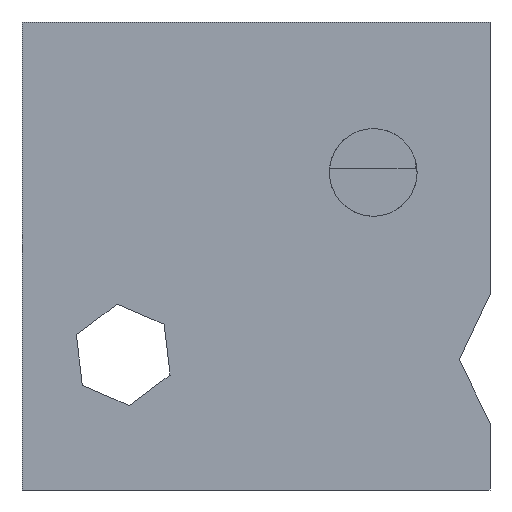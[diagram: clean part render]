
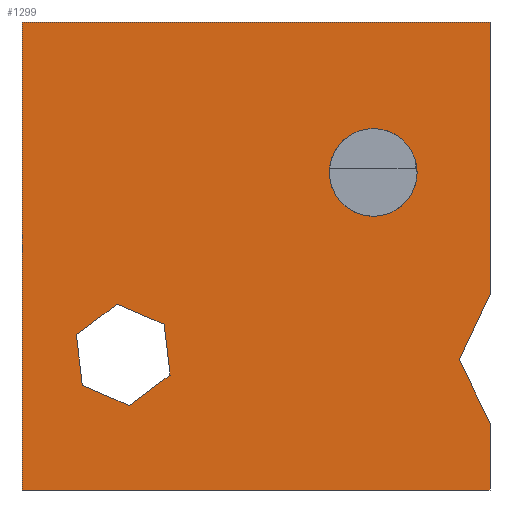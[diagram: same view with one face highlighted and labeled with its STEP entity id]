
A CAD part, left-side view. The second image highlights one B-rep face of the part: STEP entity #1299.
In plain terms, the highlighted planar face has unit normal (-1, 0, 0).
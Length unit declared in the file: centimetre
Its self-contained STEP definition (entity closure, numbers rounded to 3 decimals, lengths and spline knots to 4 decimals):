
#26 = DIRECTION ( 'NONE',  ( 0., 0., -1. ) ) ;
#27 = ORIENTED_EDGE ( 'NONE', *, *, #167, .T. ) ;
#40 = VERTEX_POINT ( 'NONE', #1095 ) ;
#64 = DIRECTION ( 'NONE',  ( 0., 0., 1. ) ) ;
#74 = FACE_BOUND ( 'NONE', #1382, .T. ) ;
#93 = VECTOR ( 'NONE', #534, 100. ) ;
#94 = FACE_BOUND ( 'NONE', #403, .T. ) ;
#95 = VERTEX_POINT ( 'NONE', #363 ) ;
#115 = CARTESIAN_POINT ( 'NONE',  ( 0., 1000., 0. ) ) ;
#122 = ORIENTED_EDGE ( 'NONE', *, *, #1150, .F. ) ;
#123 = CARTESIAN_POINT ( 'NONE',  ( 0., 1000., 1000. ) ) ;
#124 = DIRECTION ( 'NONE',  ( 0., 0., -1. ) ) ;
#131 = CARTESIAN_POINT ( 'NONE',  ( 0., 683.5408, 245.668 ) ) ;
#133 = EDGE_CURVE ( 'NONE', #1635, #451, #1541, .T. ) ;
#135 = CARTESIAN_POINT ( 'NONE',  ( 0., 0., 1000. ) ) ;
#140 = LINE ( 'NONE', #391, #1735 ) ;
#145 = VECTOR ( 'NONE', #760, 100. ) ;
#146 = EDGE_CURVE ( 'NONE', #769, #95, #645, .T. ) ;
#167 = EDGE_CURVE ( 'NONE', #95, #471, #754, .T. ) ;
#171 = VECTOR ( 'NONE', #711, 100. ) ;
#177 = ORIENTED_EDGE ( 'NONE', *, *, #133, .F. ) ;
#206 = DIRECTION ( 'NONE',  ( 0., -0.919, -0.395 ) ) ;
#218 = CARTESIAN_POINT ( 'NONE',  ( 0., 770.9369, 180.4904 ) ) ;
#231 = VERTEX_POINT ( 'NONE', #1579 ) ;
#232 = CARTESIAN_POINT ( 'NONE',  ( 0., 1000., 1000. ) ) ;
#244 = CARTESIAN_POINT ( 'NONE',  ( 0., 1000., 1000. ) ) ;
#248 = CARTESIAN_POINT ( 'NONE',  ( 0., 770.9369, 180.4904 ) ) ;
#249 = VECTOR ( 'NONE', #634, 100. ) ;
#254 = LINE ( 'NONE', #123, #639 ) ;
#273 = VECTOR ( 'NONE', #206, 100. ) ;
#274 = AXIS2_PLACEMENT_3D ( 'NONE', #606, #1135, #1656 ) ;
#286 = AXIS2_PLACEMENT_3D ( 'NONE', #244, #1034, #1689 ) ;
#290 = CARTESIAN_POINT ( 'NONE',  ( 0., 65.5522, 278.7094 ) ) ;
#304 = VERTEX_POINT ( 'NONE', #1283 ) ;
#315 = VERTEX_POINT ( 'NONE', #218 ) ;
#320 = VECTOR ( 'NONE', #1156, 100. ) ;
#340 = CARTESIAN_POINT ( 'NONE',  ( 0., 249.4877, 772.3017 ) ) ;
#351 = CARTESIAN_POINT ( 'NONE',  ( 0., 696.2881, 353.944 ) ) ;
#359 = CARTESIAN_POINT ( 'NONE',  ( 0., 249.4877, 678.5262 ) ) ;
#363 = CARTESIAN_POINT ( 'NONE',  ( 0., 696.2881, 353.944 ) ) ;
#368 = DIRECTION ( 'NONE',  ( 0., 0., -1. ) ) ;
#391 = CARTESIAN_POINT ( 'NONE',  ( 0., 0., 1000. ) ) ;
#403 = EDGE_LOOP ( 'NONE', ( #567, #1005, #843, #1364, #1184, #27 ) ) ;
#419 = VECTOR ( 'NONE', #1547, 100. ) ;
#451 = VERTEX_POINT ( 'NONE', #1598 ) ;
#471 = VERTEX_POINT ( 'NONE', #131 ) ;
#480 = ORIENTED_EDGE ( 'NONE', *, *, #698, .F. ) ;
#493 = DIRECTION ( 'NONE',  ( -1., 0., 0. ) ) ;
#495 = EDGE_LOOP ( 'NONE', ( #1394, #177, #1475, #667, #480, #1269, #893 ) ) ;
#502 = CARTESIAN_POINT ( 'NONE',  ( 0., 1000., 0. ) ) ;
#534 = DIRECTION ( 'NONE',  ( 0., -0.802, 0.598 ) ) ;
#549 = VECTOR ( 'NONE', #629, 100. ) ;
#557 = CARTESIAN_POINT ( 'NONE',  ( 0., 0., 1000. ) ) ;
#561 = CARTESIAN_POINT ( 'NONE',  ( 0., 0., 417.7648 ) ) ;
#567 = ORIENTED_EDGE ( 'NONE', *, *, #631, .T. ) ;
#606 = CARTESIAN_POINT ( 'NONE',  ( 0., 249.4877, 678.5262 ) ) ;
#629 = DIRECTION ( 'NONE',  ( 0., -1., 0. ) ) ;
#631 = EDGE_CURVE ( 'NONE', #471, #315, #1537, .T. ) ;
#634 = DIRECTION ( 'NONE',  ( 0., -0.433, -0.901 ) ) ;
#639 = VECTOR ( 'NONE', #368, 100. ) ;
#643 = FACE_OUTER_BOUND ( 'NONE', #495, .T. ) ;
#645 = LINE ( 'NONE', #870, #273 ) ;
#653 = AXIS2_PLACEMENT_3D ( 'NONE', #359, #493, #64 ) ;
#667 = ORIENTED_EDGE ( 'NONE', *, *, #1417, .F. ) ;
#694 = VECTOR ( 'NONE', #1712, 100. ) ;
#698 = EDGE_CURVE ( 'NONE', #988, #1432, #1165, .T. ) ;
#711 = DIRECTION ( 'NONE',  ( 0., 0.426, -0.905 ) ) ;
#716 = EDGE_CURVE ( 'NONE', #1359, #722, #771, .T. ) ;
#717 = VECTOR ( 'NONE', #26, 100. ) ;
#722 = VERTEX_POINT ( 'NONE', #1315 ) ;
#733 = CARTESIAN_POINT ( 'NONE',  ( 0., 683.5408, 245.668 ) ) ;
#754 = LINE ( 'NONE', #351, #906 ) ;
#757 = EDGE_CURVE ( 'NONE', #315, #304, #1695, .T. ) ;
#760 = DIRECTION ( 'NONE',  ( 0., -1., 0. ) ) ;
#763 = PLANE ( 'NONE',  #286 ) ;
#764 = CIRCLE ( 'NONE', #274, 93.7754 ) ;
#769 = VERTEX_POINT ( 'NONE', #780 ) ;
#771 = LINE ( 'NONE', #502, #145 ) ;
#780 = CARTESIAN_POINT ( 'NONE',  ( 0., 796.4316, 397.0425 ) ) ;
#807 = EDGE_CURVE ( 'NONE', #40, #769, #1703, .T. ) ;
#843 = ORIENTED_EDGE ( 'NONE', *, *, #1263, .T. ) ;
#859 = EDGE_CURVE ( 'NONE', #988, #1359, #254, .T. ) ;
#870 = CARTESIAN_POINT ( 'NONE',  ( 0., 796.4316, 397.0425 ) ) ;
#878 = ORIENTED_EDGE ( 'NONE', *, *, #1725, .F. ) ;
#893 = ORIENTED_EDGE ( 'NONE', *, *, #716, .T. ) ;
#906 = VECTOR ( 'NONE', #1169, 100. ) ;
#916 = EDGE_CURVE ( 'NONE', #451, #722, #1213, .T. ) ;
#944 = EDGE_CURVE ( 'NONE', #951, #1635, #1231, .T. ) ;
#951 = VERTEX_POINT ( 'NONE', #561 ) ;
#988 = VERTEX_POINT ( 'NONE', #1106 ) ;
#1005 = ORIENTED_EDGE ( 'NONE', *, *, #757, .T. ) ;
#1016 = CARTESIAN_POINT ( 'NONE',  ( 0., 871.0803, 223.5889 ) ) ;
#1034 = DIRECTION ( 'NONE',  ( 1., 0., 0. ) ) ;
#1095 = CARTESIAN_POINT ( 'NONE',  ( 0., 883.8277, 331.8649 ) ) ;
#1106 = CARTESIAN_POINT ( 'NONE',  ( 0., 1000., 1000. ) ) ;
#1135 = DIRECTION ( 'NONE',  ( -1., 0., 0. ) ) ;
#1150 = EDGE_CURVE ( 'NONE', #231, #1679, #764, .T. ) ;
#1156 = DIRECTION ( 'NONE',  ( 0., 0.802, -0.598 ) ) ;
#1165 = LINE ( 'NONE', #232, #549 ) ;
#1169 = DIRECTION ( 'NONE',  ( 0., -0.117, -0.993 ) ) ;
#1184 = ORIENTED_EDGE ( 'NONE', *, *, #146, .T. ) ;
#1213 = LINE ( 'NONE', #135, #717 ) ;
#1231 = LINE ( 'NONE', #290, #171 ) ;
#1263 = EDGE_CURVE ( 'NONE', #304, #40, #1698, .T. ) ;
#1269 = ORIENTED_EDGE ( 'NONE', *, *, #859, .T. ) ;
#1283 = CARTESIAN_POINT ( 'NONE',  ( 0., 871.0803, 223.5889 ) ) ;
#1299 = ADVANCED_FACE ( 'NONE', ( #94, #74, #643 ), #763, .F. ) ;
#1315 = CARTESIAN_POINT ( 'NONE',  ( 0., 0., 0. ) ) ;
#1359 = VERTEX_POINT ( 'NONE', #115 ) ;
#1364 = ORIENTED_EDGE ( 'NONE', *, *, #807, .T. ) ;
#1382 = EDGE_LOOP ( 'NONE', ( #878, #122 ) ) ;
#1394 = ORIENTED_EDGE ( 'NONE', *, *, #916, .F. ) ;
#1417 = EDGE_CURVE ( 'NONE', #1432, #951, #140, .T. ) ;
#1432 = VERTEX_POINT ( 'NONE', #557 ) ;
#1433 = CARTESIAN_POINT ( 'NONE',  ( 0., 0., 142.3178 ) ) ;
#1449 = CARTESIAN_POINT ( 'NONE',  ( 0., 883.8277, 331.8649 ) ) ;
#1475 = ORIENTED_EDGE ( 'NONE', *, *, #944, .F. ) ;
#1529 = CARTESIAN_POINT ( 'NONE',  ( 0., 65.5522, 278.7094 ) ) ;
#1537 = LINE ( 'NONE', #733, #320 ) ;
#1541 = LINE ( 'NONE', #1433, #249 ) ;
#1547 = DIRECTION ( 'NONE',  ( 0., 0.117, 0.993 ) ) ;
#1558 = CIRCLE ( 'NONE', #653, 93.7754 ) ;
#1579 = CARTESIAN_POINT ( 'NONE',  ( 0., 249.4877, 584.7508 ) ) ;
#1598 = CARTESIAN_POINT ( 'NONE',  ( 0., 0., 142.3178 ) ) ;
#1635 = VERTEX_POINT ( 'NONE', #1529 ) ;
#1656 = DIRECTION ( 'NONE',  ( 0., 0., 1. ) ) ;
#1679 = VERTEX_POINT ( 'NONE', #340 ) ;
#1689 = DIRECTION ( 'NONE',  ( 0., 0., -1. ) ) ;
#1695 = LINE ( 'NONE', #248, #694 ) ;
#1698 = LINE ( 'NONE', #1016, #419 ) ;
#1703 = LINE ( 'NONE', #1449, #93 ) ;
#1712 = DIRECTION ( 'NONE',  ( 0., 0.919, 0.395 ) ) ;
#1725 = EDGE_CURVE ( 'NONE', #1679, #231, #1558, .T. ) ;
#1735 = VECTOR ( 'NONE', #124, 100. ) ;
